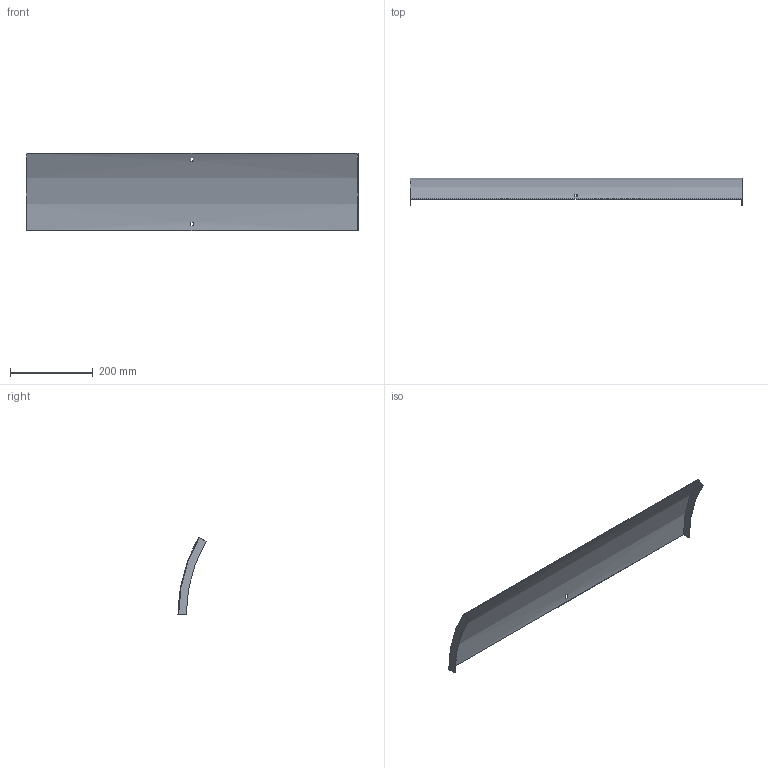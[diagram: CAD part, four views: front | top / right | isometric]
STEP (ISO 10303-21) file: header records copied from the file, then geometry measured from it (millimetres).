
FILE_DESCRIPTION (( 'STEP AP214' ), '1' );
FILE_NAME ('B2_35N3C800.step', '2025-02-21T10:32:08', ( '' ), ( '' ), 'SwSTEP 2.0', 'SolidWorks 2023', '' );
FILE_SCHEMA (( 'AUTOMOTIVE_DESIGN' ));
Length unit declared in the file: millimetre
Products named in the file (1): B2_35N3C800
Bounding box: 803 x 67.76 x 188.25 mm (x, y, z)
Volume: 247429 mm3; surface area: 333079.5 mm2
Topology: 1 solids, 1 shells, 18 faces, 48 edges, 32 vertices
Faces by surface type: plane 14, cylinder 4
Entity records: 599 total; most frequent: DIRECTION 102, CARTESIAN_POINT 99, ORIENTED_EDGE 96, EDGE_CURVE 48, AXIS2_PLACEMENT_3D 35, VERTEX_POINT 32, VECTOR 32, LINE 32
